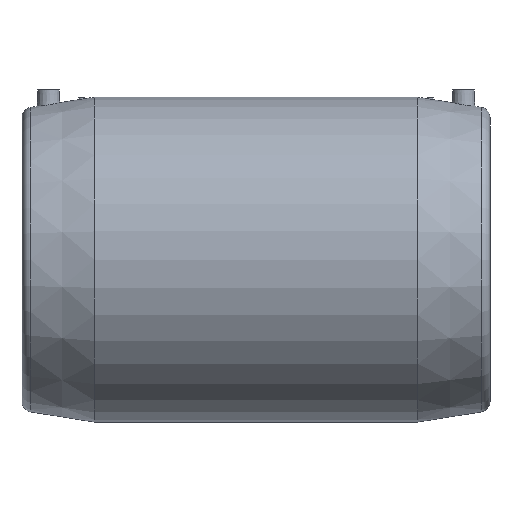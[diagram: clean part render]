
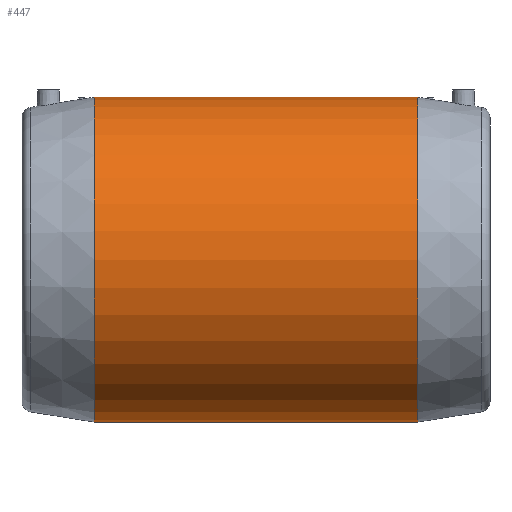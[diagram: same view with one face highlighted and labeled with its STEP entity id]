
A CAD part, front view. The second image highlights one B-rep face of the part: STEP entity #447.
In plain terms, the highlighted cylindrical face has radius 144 mm (diameter 288 mm), a full revolution.
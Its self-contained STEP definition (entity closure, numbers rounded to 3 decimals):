
#48=CYLINDRICAL_SURFACE('',#513,144.);
#60=B_SPLINE_CURVE_WITH_KNOTS('',3,(#883,#884,#885,#886,#887,#888,#889,
#890,#891,#892,#893,#894,#895,#896,#897,#898,#899,#900,#901,#902,#903,#904,
#905,#906,#907,#908,#909,#910,#911,#912,#913,#914,#915,#916,#917,#918,#919,
#920,#921,#922,#923,#924,#925,#926,#927,#928,#929,#930,#931,#932,#933,#934,
#935,#936,#937,#938,#939,#940,#941,#942,#943,#944,#945,#946,#947,#948,#949,
#950,#951,#952,#953,#954,#955,#956,#957,#958,#959,#960,#961),
 .UNSPECIFIED.,.T.,.F.,(1,1,1,1,1,1,1,1,1,1,1,1,1,1,1,1,1,1,1,1,1,1,1,1,
1,1,1,1,1,1,1,1,1,1,1,1,1,1,1,1,1,1,1,1,1,1,1,1,1,1,1,1,1,1,1,1,1,1,1,1,
1,1,1,1,1,1,1,1,1,1,1,1,1,1,1,1,1,1,1,1,1,1,1),(-0.038,-0.025,
-0.013,0.,0.013,0.025,0.038,
0.044,0.051,0.063,0.076,
0.088,0.101,0.114,0.126,
0.139,0.152,0.164,0.171,
0.177,0.183,0.19,0.196,
0.202,0.215,0.221,0.228,
0.24,0.247,0.253,0.265,
0.278,0.291,0.303,0.316,
0.329,0.341,0.354,0.367,
0.379,0.386,0.392,0.405,
0.411,0.417,0.43,0.442,
0.455,0.468,0.48,0.493,
0.506,0.518,0.531,0.544,
0.556,0.569,0.582,0.594,
0.607,0.619,0.632,0.645,
0.657,0.664,0.67,0.683,
0.695,0.708,0.714,0.721,
0.733,0.746,0.752,0.759,
0.765,0.771,0.784,0.796,
0.809,0.822,0.834,0.847),
 .UNSPECIFIED.);
#105=ORIENTED_EDGE('',*,*,#181,.T.);
#106=ORIENTED_EDGE('',*,*,#168,.F.);
#107=ORIENTED_EDGE('',*,*,#180,.T.);
#168=EDGE_CURVE('',#213,#213,#250,.T.);
#180=EDGE_CURVE('',#225,#225,#259,.T.);
#181=EDGE_CURVE('',#226,#226,#60,.T.);
#213=VERTEX_POINT('',#773);
#225=VERTEX_POINT('',#881);
#226=VERTEX_POINT('',#962);
#250=CIRCLE('',#497,144.);
#259=CIRCLE('',#512,144.);
#306=EDGE_LOOP('',(#105));
#307=EDGE_LOOP('',(#106));
#308=EDGE_LOOP('',(#107));
#378=FACE_BOUND('',#306,.T.);
#379=FACE_BOUND('',#307,.T.);
#380=FACE_BOUND('',#308,.T.);
#447=ADVANCED_FACE('',(#378,#379,#380),#48,.T.);
#497=AXIS2_PLACEMENT_3D('',#772,#578,#579);
#512=AXIS2_PLACEMENT_3D('',#880,#610,#611);
#513=AXIS2_PLACEMENT_3D('',#882,#612,#613);
#578=DIRECTION('',(-1.,0.,0.));
#579=DIRECTION('',(0.,0.,1.));
#610=DIRECTION('',(-1.,0.,0.));
#611=DIRECTION('',(0.,0.,1.));
#612=DIRECTION('',(-1.,0.,0.));
#613=DIRECTION('',(0.,0.,1.));
#772=CARTESIAN_POINT('',(-143.5,0.,0.));
#773=CARTESIAN_POINT('',(-143.5,0.,144.));
#880=CARTESIAN_POINT('',(143.5,0.,0.));
#881=CARTESIAN_POINT('',(143.5,0.,144.));
#882=CARTESIAN_POINT('',(-60.,0.,0.));
#883=CARTESIAN_POINT('',(122.031,143.627,-12.689));
#884=CARTESIAN_POINT('',(122.734,144.186,0.01));
#885=CARTESIAN_POINT('',(122.033,143.629,12.65));
#886=CARTESIAN_POINT('',(119.95,141.979,25.073));
#887=CARTESIAN_POINT('',(117.188,139.806,34.894));
#888=CARTESIAN_POINT('',(114.395,137.63,42.492));
#889=CARTESIAN_POINT('',(111.207,135.164,49.932));
#890=CARTESIAN_POINT('',(106.621,131.657,58.676));
#891=CARTESIAN_POINT('',(100.24,126.882,68.371));
#892=CARTESIAN_POINT('',(92.989,121.607,77.341));
#893=CARTESIAN_POINT('',(85.107,116.082,85.386));
#894=CARTESIAN_POINT('',(76.594,110.39,92.61));
#895=CARTESIAN_POINT('',(67.375,104.608,99.078));
#896=CARTESIAN_POINT('',(57.621,98.994,104.666));
#897=CARTESIAN_POINT('',(47.31,93.722,109.393));
#898=CARTESIAN_POINT('',(38.149,89.772,112.618));
#899=CARTESIAN_POINT('',(30.421,87.034,114.73));
#900=CARTESIAN_POINT('',(24.528,85.274,116.041));
#901=CARTESIAN_POINT('',(18.502,83.837,117.082));
#902=CARTESIAN_POINT('',(12.338,82.766,117.84));
#903=CARTESIAN_POINT('',(6.015,82.106,118.299));
#904=CARTESIAN_POINT('',(-2.35,81.833,118.487));
#905=CARTESIAN_POINT('',(-10.657,82.453,118.061));
#906=CARTESIAN_POINT('',(-18.947,83.929,117.016));
#907=CARTESIAN_POINT('',(-26.996,85.888,115.595));
#908=CARTESIAN_POINT('',(-34.705,88.464,113.65));
#909=CARTESIAN_POINT('',(-42.137,91.491,111.214));
#910=CARTESIAN_POINT('',(-49.413,94.786,108.444));
#911=CARTESIAN_POINT('',(-58.013,99.209,104.463));
#912=CARTESIAN_POINT('',(-67.69,104.8,98.872));
#913=CARTESIAN_POINT('',(-76.786,110.515,92.462));
#914=CARTESIAN_POINT('',(-85.378,116.266,85.138));
#915=CARTESIAN_POINT('',(-93.214,121.769,77.081));
#916=CARTESIAN_POINT('',(-100.319,126.941,68.252));
#917=CARTESIAN_POINT('',(-106.666,131.691,58.606));
#918=CARTESIAN_POINT('',(-112.22,135.939,47.975));
#919=CARTESIAN_POINT('',(-116.663,139.393,36.775));
#920=CARTESIAN_POINT('',(-119.428,141.567,26.921));
#921=CARTESIAN_POINT('',(-121.024,142.829,18.68));
#922=CARTESIAN_POINT('',(-122.157,143.727,10.42));
#923=CARTESIAN_POINT('',(-122.614,144.091,2.094));
#924=CARTESIAN_POINT('',(-122.386,143.909,-6.279));
#925=CARTESIAN_POINT('',(-121.686,143.354,-14.723));
#926=CARTESIAN_POINT('',(-119.972,141.996,-24.95));
#927=CARTESIAN_POINT('',(-116.688,139.413,-36.715));
#928=CARTESIAN_POINT('',(-112.173,135.903,-48.078));
#929=CARTESIAN_POINT('',(-106.682,131.704,-58.571));
#930=CARTESIAN_POINT('',(-100.309,126.933,-68.277));
#931=CARTESIAN_POINT('',(-93.057,121.655,-77.265));
#932=CARTESIAN_POINT('',(-85.2,116.145,-85.299));
#933=CARTESIAN_POINT('',(-76.721,110.474,-92.508));
#934=CARTESIAN_POINT('',(-67.607,104.748,-98.93));
#935=CARTESIAN_POINT('',(-57.779,99.078,-104.588));
#936=CARTESIAN_POINT('',(-47.447,93.788,-109.336));
#937=CARTESIAN_POINT('',(-36.498,89.051,-113.208));
#938=CARTESIAN_POINT('',(-24.736,85.151,-116.15));
#939=CARTESIAN_POINT('',(-12.603,82.587,-117.969));
#940=CARTESIAN_POINT('',(0.137,81.67,-118.599));
#941=CARTESIAN_POINT('',(12.588,82.588,-117.968));
#942=CARTESIAN_POINT('',(24.938,85.202,-116.112));
#943=CARTESIAN_POINT('',(36.504,89.06,-113.201));
#944=CARTESIAN_POINT('',(45.662,93.014,-109.969));
#945=CARTESIAN_POINT('',(52.727,96.491,-106.91));
#946=CARTESIAN_POINT('',(59.522,100.083,-103.587));
#947=CARTESIAN_POINT('',(67.598,104.744,-98.931));
#948=CARTESIAN_POINT('',(76.684,110.45,-92.537));
#949=CARTESIAN_POINT('',(83.803,115.21,-86.49));
#950=CARTESIAN_POINT('',(89.204,118.953,-81.204));
#951=CARTESIAN_POINT('',(94.328,122.58,-75.692));
#952=CARTESIAN_POINT('',(100.257,126.895,-68.338));
#953=CARTESIAN_POINT('',(105.533,130.843,-60.33));
#954=CARTESIAN_POINT('',(109.338,133.735,-53.493));
#955=CARTESIAN_POINT('',(111.979,135.762,-48.126));
#956=CARTESIAN_POINT('',(114.374,137.614,-42.543));
#957=CARTESIAN_POINT('',(117.171,139.793,-34.949));
#958=CARTESIAN_POINT('',(119.939,141.97,-25.124));
#959=CARTESIAN_POINT('',(122.031,143.627,-12.689));
#960=CARTESIAN_POINT('',(122.734,144.186,0.01));
#961=CARTESIAN_POINT('',(122.033,143.629,12.65));
#962=CARTESIAN_POINT('',(122.5,144.,0.));
